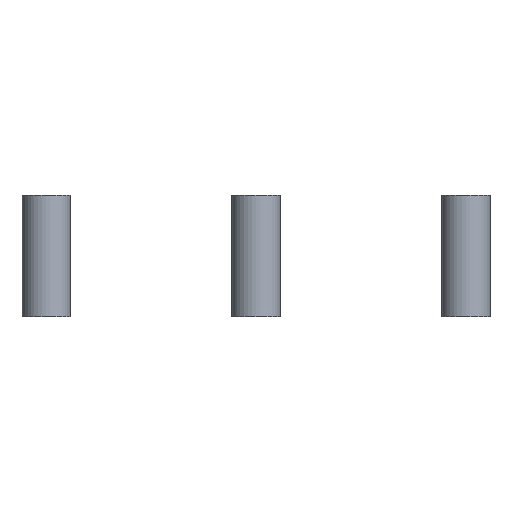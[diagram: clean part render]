
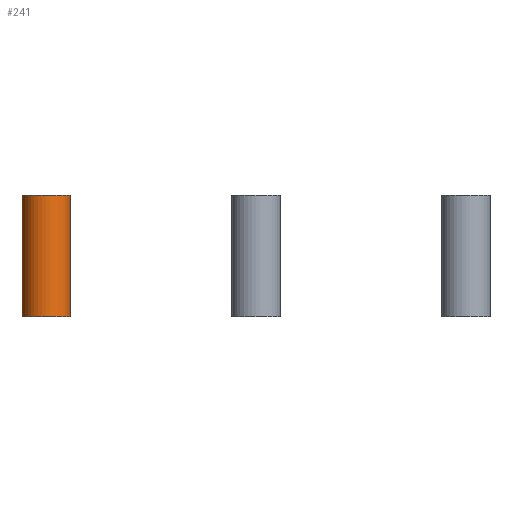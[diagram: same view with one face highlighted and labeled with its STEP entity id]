
A CAD part, left-side view. The second image highlights one B-rep face of the part: STEP entity #241.
In plain terms, the highlighted cylindrical face has radius 2 mm (diameter 4 mm), a full revolution.
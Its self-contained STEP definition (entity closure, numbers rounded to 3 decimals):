
#241 = ADVANCED_FACE('',(#242),#255,.T.);
#242 = FACE_BOUND('',#243,.T.);
#243 = EDGE_LOOP('',(#244,#278,#301,#328));
#244 = ORIENTED_EDGE('',*,*,#245,.F.);
#245 = EDGE_CURVE('',#246,#246,#248,.T.);
#246 = VERTEX_POINT('',#247);
#247 = CARTESIAN_POINT('',(-8.,17.321,10.));
#248 = SURFACE_CURVE('',#249,(#254,#266),.PCURVE_S1.);
#249 = CIRCLE('',#250,2.);
#250 = AXIS2_PLACEMENT_3D('',#251,#252,#253);
#251 = CARTESIAN_POINT('',(-10.,17.321,10.));
#252 = DIRECTION('',(0.,0.,1.));
#253 = DIRECTION('',(1.,0.,-0.));
#254 = PCURVE('',#255,#260);
#255 = CYLINDRICAL_SURFACE('',#256,2.);
#256 = AXIS2_PLACEMENT_3D('',#257,#258,#259);
#257 = CARTESIAN_POINT('',(-10.,17.321,0.));
#258 = DIRECTION('',(0.,0.,1.));
#259 = DIRECTION('',(1.,0.,-0.));
#260 = DEFINITIONAL_REPRESENTATION('',(#261),#265);
#261 = LINE('',#262,#263);
#262 = CARTESIAN_POINT('',(0.,10.));
#263 = VECTOR('',#264,1.);
#264 = DIRECTION('',(1.,0.));
#265 = ( GEOMETRIC_REPRESENTATION_CONTEXT(2) 
PARAMETRIC_REPRESENTATION_CONTEXT() REPRESENTATION_CONTEXT('2D SPACE',''
  ) );
#266 = PCURVE('',#267,#272);
#267 = PLANE('',#268);
#268 = AXIS2_PLACEMENT_3D('',#269,#270,#271);
#269 = CARTESIAN_POINT('',(-10.,17.321,10.));
#270 = DIRECTION('',(0.,0.,1.));
#271 = DIRECTION('',(1.,0.,-0.));
#272 = DEFINITIONAL_REPRESENTATION('',(#273),#277);
#273 = CIRCLE('',#274,2.);
#274 = AXIS2_PLACEMENT_2D('',#275,#276);
#275 = CARTESIAN_POINT('',(0.,0.));
#276 = DIRECTION('',(1.,0.));
#277 = ( GEOMETRIC_REPRESENTATION_CONTEXT(2) 
PARAMETRIC_REPRESENTATION_CONTEXT() REPRESENTATION_CONTEXT('2D SPACE',''
  ) );
#278 = ORIENTED_EDGE('',*,*,#279,.F.);
#279 = EDGE_CURVE('',#280,#246,#282,.T.);
#280 = VERTEX_POINT('',#281);
#281 = CARTESIAN_POINT('',(-8.,17.321,0.));
#282 = SEAM_CURVE('',#283,(#287,#294),.PCURVE_S1.);
#283 = LINE('',#284,#285);
#284 = CARTESIAN_POINT('',(-8.,17.321,0.));
#285 = VECTOR('',#286,1.);
#286 = DIRECTION('',(0.,0.,1.));
#287 = PCURVE('',#255,#288);
#288 = DEFINITIONAL_REPRESENTATION('',(#289),#293);
#289 = LINE('',#290,#291);
#290 = CARTESIAN_POINT('',(6.283,-0.));
#291 = VECTOR('',#292,1.);
#292 = DIRECTION('',(0.,1.));
#293 = ( GEOMETRIC_REPRESENTATION_CONTEXT(2) 
PARAMETRIC_REPRESENTATION_CONTEXT() REPRESENTATION_CONTEXT('2D SPACE',''
  ) );
#294 = PCURVE('',#255,#295);
#295 = DEFINITIONAL_REPRESENTATION('',(#296),#300);
#296 = LINE('',#297,#298);
#297 = CARTESIAN_POINT('',(0.,-0.));
#298 = VECTOR('',#299,1.);
#299 = DIRECTION('',(0.,1.));
#300 = ( GEOMETRIC_REPRESENTATION_CONTEXT(2) 
PARAMETRIC_REPRESENTATION_CONTEXT() REPRESENTATION_CONTEXT('2D SPACE',''
  ) );
#301 = ORIENTED_EDGE('',*,*,#302,.T.);
#302 = EDGE_CURVE('',#280,#280,#303,.T.);
#303 = SURFACE_CURVE('',#304,(#309,#316),.PCURVE_S1.);
#304 = CIRCLE('',#305,2.);
#305 = AXIS2_PLACEMENT_3D('',#306,#307,#308);
#306 = CARTESIAN_POINT('',(-10.,17.321,0.));
#307 = DIRECTION('',(0.,0.,1.));
#308 = DIRECTION('',(1.,0.,-0.));
#309 = PCURVE('',#255,#310);
#310 = DEFINITIONAL_REPRESENTATION('',(#311),#315);
#311 = LINE('',#312,#313);
#312 = CARTESIAN_POINT('',(0.,0.));
#313 = VECTOR('',#314,1.);
#314 = DIRECTION('',(1.,0.));
#315 = ( GEOMETRIC_REPRESENTATION_CONTEXT(2) 
PARAMETRIC_REPRESENTATION_CONTEXT() REPRESENTATION_CONTEXT('2D SPACE',''
  ) );
#316 = PCURVE('',#317,#322);
#317 = PLANE('',#318);
#318 = AXIS2_PLACEMENT_3D('',#319,#320,#321);
#319 = CARTESIAN_POINT('',(-10.,17.321,0.));
#320 = DIRECTION('',(0.,0.,1.));
#321 = DIRECTION('',(1.,0.,-0.));
#322 = DEFINITIONAL_REPRESENTATION('',(#323),#327);
#323 = CIRCLE('',#324,2.);
#324 = AXIS2_PLACEMENT_2D('',#325,#326);
#325 = CARTESIAN_POINT('',(0.,0.));
#326 = DIRECTION('',(1.,0.));
#327 = ( GEOMETRIC_REPRESENTATION_CONTEXT(2) 
PARAMETRIC_REPRESENTATION_CONTEXT() REPRESENTATION_CONTEXT('2D SPACE',''
  ) );
#328 = ORIENTED_EDGE('',*,*,#279,.T.);
